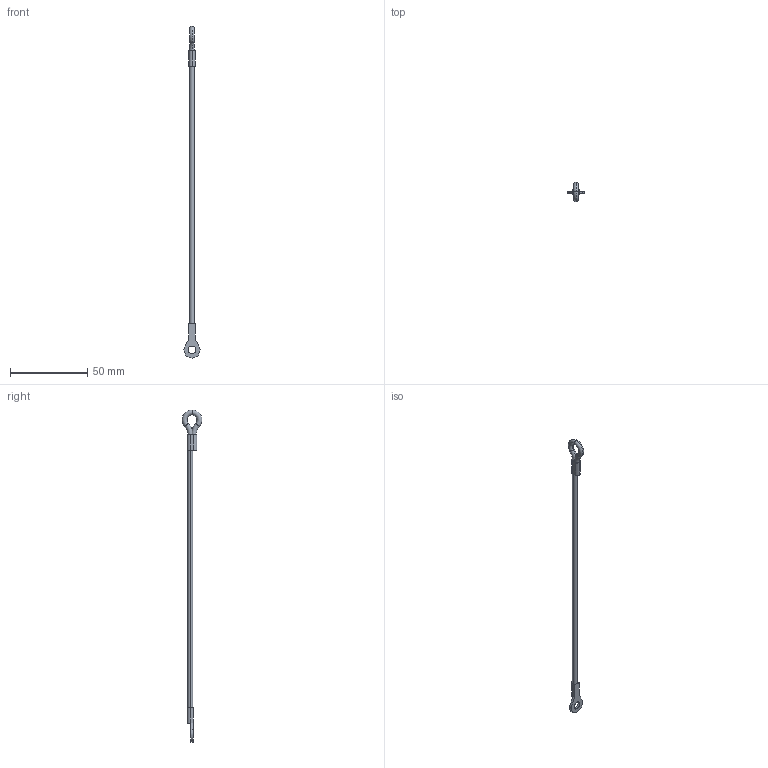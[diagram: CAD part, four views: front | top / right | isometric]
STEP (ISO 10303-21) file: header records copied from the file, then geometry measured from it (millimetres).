
FILE_DESCRIPTION (( 'STEP AP203' ), '1' );
FILE_NAME ('LA1075.I06-203C1.step', '2026-03-23T16:44:13', ( '' ), ( '' ), 'SwSTEP 2.0', 'SolidWorks 2019', '' );
FILE_SCHEMA (( 'CONFIG_CONTROL_DESIGN' ));
Length unit declared in the file: millimetre
Products named in the file (1): LA1075.I06-203C1
Bounding box: 10.41 x 12.75 x 214.79 mm (x, y, z)
Volume: 2079.9 mm3; surface area: 2586.3 mm2
Topology: 1 solids, 1 shells, 30 faces, 72 edges, 45 vertices
Faces by surface type: plane 12, cylinder 10, torus 8
Entity records: 993 total; most frequent: CARTESIAN_POINT 178, DIRECTION 170, ORIENTED_EDGE 144, EDGE_CURVE 72, AXIS2_PLACEMENT_3D 69, VERTEX_POINT 45, CIRCLE 38, EDGE_LOOP 35
